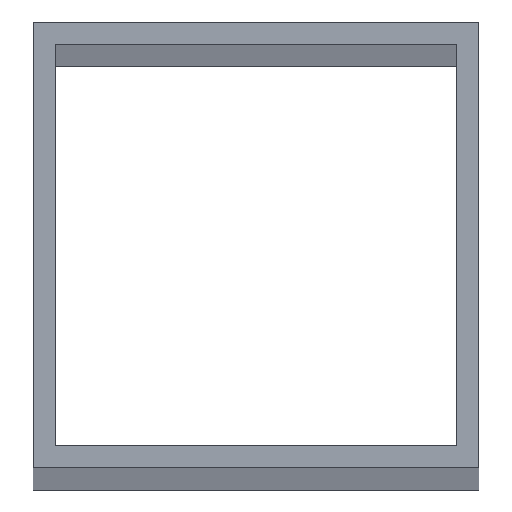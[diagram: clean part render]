
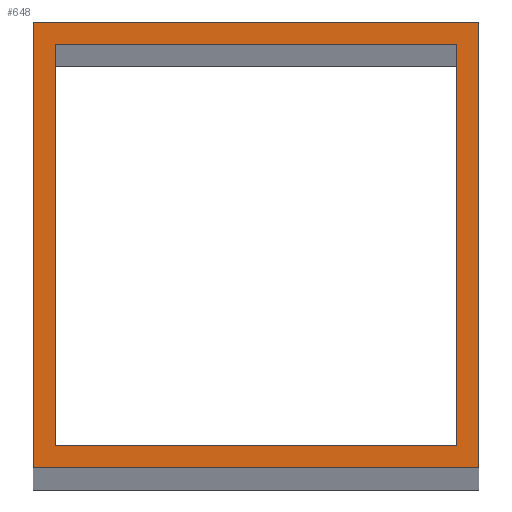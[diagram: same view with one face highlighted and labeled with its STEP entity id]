
A CAD part, top view. The second image highlights one B-rep face of the part: STEP entity #648.
In plain terms, the highlighted planar face has unit normal (0, 0, 1).
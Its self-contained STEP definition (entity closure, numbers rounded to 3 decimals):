
#24 = VERTEX_POINT('',#25);
#25 = CARTESIAN_POINT('',(50.,-50.,2848.));
#32 = PLANE('',#33);
#33 = AXIS2_PLACEMENT_3D('',#34,#35,#36);
#34 = CARTESIAN_POINT('',(50.,-50.,0.));
#35 = DIRECTION('',(-0.,1.,-0.));
#36 = DIRECTION('',(1.,0.,0.));
#44 = PLANE('',#45);
#45 = AXIS2_PLACEMENT_3D('',#46,#47,#48);
#46 = CARTESIAN_POINT('',(50.,50.,0.));
#47 = DIRECTION('',(-1.,-0.,-0.));
#48 = DIRECTION('',(0.,1.,0.));
#56 = EDGE_CURVE('',#24,#57,#59,.T.);
#57 = VERTEX_POINT('',#58);
#58 = CARTESIAN_POINT('',(-50.,-50.,2848.));
#59 = SURFACE_CURVE('',#60,(#64,#71),.PCURVE_S1.);
#60 = LINE('',#61,#62);
#61 = CARTESIAN_POINT('',(50.,-50.,2848.));
#62 = VECTOR('',#63,1.);
#63 = DIRECTION('',(-1.,-0.,-0.));
#64 = PCURVE('',#32,#65);
#65 = DEFINITIONAL_REPRESENTATION('',(#66),#70);
#66 = LINE('',#67,#68);
#67 = CARTESIAN_POINT('',(-0.,-2848.));
#68 = VECTOR('',#69,1.);
#69 = DIRECTION('',(-1.,0.));
#70 = ( GEOMETRIC_REPRESENTATION_CONTEXT(2) 
PARAMETRIC_REPRESENTATION_CONTEXT() REPRESENTATION_CONTEXT('2D SPACE',''
  ) );
#71 = PCURVE('',#72,#77);
#72 = PLANE('',#73);
#73 = AXIS2_PLACEMENT_3D('',#74,#75,#76);
#74 = CARTESIAN_POINT('',(0.,0.,2848.));
#75 = DIRECTION('',(-0.,-0.,1.));
#76 = DIRECTION('',(1.,0.,0.));
#77 = DEFINITIONAL_REPRESENTATION('',(#78),#82);
#78 = LINE('',#79,#80);
#79 = CARTESIAN_POINT('',(50.,-50.));
#80 = VECTOR('',#81,1.);
#81 = DIRECTION('',(-1.,0.));
#82 = ( GEOMETRIC_REPRESENTATION_CONTEXT(2) 
PARAMETRIC_REPRESENTATION_CONTEXT() REPRESENTATION_CONTEXT('2D SPACE',''
  ) );
#100 = PLANE('',#101);
#101 = AXIS2_PLACEMENT_3D('',#102,#103,#104);
#102 = CARTESIAN_POINT('',(-50.,-50.,0.));
#103 = DIRECTION('',(1.,-0.,-0.));
#104 = DIRECTION('',(0.,-1.,0.));
#142 = EDGE_CURVE('',#57,#143,#145,.T.);
#143 = VERTEX_POINT('',#144);
#144 = CARTESIAN_POINT('',(-50.,50.,2848.));
#145 = SURFACE_CURVE('',#146,(#150,#157),.PCURVE_S1.);
#146 = LINE('',#147,#148);
#147 = CARTESIAN_POINT('',(-50.,-50.,2848.));
#148 = VECTOR('',#149,1.);
#149 = DIRECTION('',(-0.,1.,-0.));
#150 = PCURVE('',#100,#151);
#151 = DEFINITIONAL_REPRESENTATION('',(#152),#156);
#152 = LINE('',#153,#154);
#153 = CARTESIAN_POINT('',(-0.,-2848.));
#154 = VECTOR('',#155,1.);
#155 = DIRECTION('',(-1.,0.));
#156 = ( GEOMETRIC_REPRESENTATION_CONTEXT(2) 
PARAMETRIC_REPRESENTATION_CONTEXT() REPRESENTATION_CONTEXT('2D SPACE',''
  ) );
#157 = PCURVE('',#72,#158);
#158 = DEFINITIONAL_REPRESENTATION('',(#159),#163);
#159 = LINE('',#160,#161);
#160 = CARTESIAN_POINT('',(-50.,-50.));
#161 = VECTOR('',#162,1.);
#162 = DIRECTION('',(-0.,1.));
#163 = ( GEOMETRIC_REPRESENTATION_CONTEXT(2) 
PARAMETRIC_REPRESENTATION_CONTEXT() REPRESENTATION_CONTEXT('2D SPACE',''
  ) );
#181 = PLANE('',#182);
#182 = AXIS2_PLACEMENT_3D('',#183,#184,#185);
#183 = CARTESIAN_POINT('',(-50.,50.,0.));
#184 = DIRECTION('',(-0.,-1.,-0.));
#185 = DIRECTION('',(-1.,0.,0.));
#218 = EDGE_CURVE('',#143,#219,#221,.T.);
#219 = VERTEX_POINT('',#220);
#220 = CARTESIAN_POINT('',(50.,50.,2848.));
#221 = SURFACE_CURVE('',#222,(#226,#233),.PCURVE_S1.);
#222 = LINE('',#223,#224);
#223 = CARTESIAN_POINT('',(-50.,50.,2848.));
#224 = VECTOR('',#225,1.);
#225 = DIRECTION('',(1.,-0.,-0.));
#226 = PCURVE('',#181,#227);
#227 = DEFINITIONAL_REPRESENTATION('',(#228),#232);
#228 = LINE('',#229,#230);
#229 = CARTESIAN_POINT('',(-0.,-2848.));
#230 = VECTOR('',#231,1.);
#231 = DIRECTION('',(-1.,0.));
#232 = ( GEOMETRIC_REPRESENTATION_CONTEXT(2) 
PARAMETRIC_REPRESENTATION_CONTEXT() REPRESENTATION_CONTEXT('2D SPACE',''
  ) );
#233 = PCURVE('',#72,#234);
#234 = DEFINITIONAL_REPRESENTATION('',(#235),#239);
#235 = LINE('',#236,#237);
#236 = CARTESIAN_POINT('',(-50.,50.));
#237 = VECTOR('',#238,1.);
#238 = DIRECTION('',(1.,-0.));
#239 = ( GEOMETRIC_REPRESENTATION_CONTEXT(2) 
PARAMETRIC_REPRESENTATION_CONTEXT() REPRESENTATION_CONTEXT('2D SPACE',''
  ) );
#289 = EDGE_CURVE('',#219,#24,#290,.T.);
#290 = SURFACE_CURVE('',#291,(#295,#302),.PCURVE_S1.);
#291 = LINE('',#292,#293);
#292 = CARTESIAN_POINT('',(50.,50.,2848.));
#293 = VECTOR('',#294,1.);
#294 = DIRECTION('',(-0.,-1.,-0.));
#295 = PCURVE('',#44,#296);
#296 = DEFINITIONAL_REPRESENTATION('',(#297),#301);
#297 = LINE('',#298,#299);
#298 = CARTESIAN_POINT('',(-0.,-2848.));
#299 = VECTOR('',#300,1.);
#300 = DIRECTION('',(-1.,0.));
#301 = ( GEOMETRIC_REPRESENTATION_CONTEXT(2) 
PARAMETRIC_REPRESENTATION_CONTEXT() REPRESENTATION_CONTEXT('2D SPACE',''
  ) );
#302 = PCURVE('',#72,#303);
#303 = DEFINITIONAL_REPRESENTATION('',(#304),#308);
#304 = LINE('',#305,#306);
#305 = CARTESIAN_POINT('',(50.,50.));
#306 = VECTOR('',#307,1.);
#307 = DIRECTION('',(-0.,-1.));
#308 = ( GEOMETRIC_REPRESENTATION_CONTEXT(2) 
PARAMETRIC_REPRESENTATION_CONTEXT() REPRESENTATION_CONTEXT('2D SPACE',''
  ) );
#338 = VERTEX_POINT('',#339);
#339 = CARTESIAN_POINT('',(45.,-45.,2848.));
#346 = PLANE('',#347);
#347 = AXIS2_PLACEMENT_3D('',#348,#349,#350);
#348 = CARTESIAN_POINT('',(45.,-45.,0.));
#349 = DIRECTION('',(-0.,1.,-0.));
#350 = DIRECTION('',(1.,0.,0.));
#358 = PLANE('',#359);
#359 = AXIS2_PLACEMENT_3D('',#360,#361,#362);
#360 = CARTESIAN_POINT('',(45.,45.,0.));
#361 = DIRECTION('',(-1.,-0.,-0.));
#362 = DIRECTION('',(0.,1.,0.));
#370 = EDGE_CURVE('',#338,#371,#373,.T.);
#371 = VERTEX_POINT('',#372);
#372 = CARTESIAN_POINT('',(-45.,-45.,2848.));
#373 = SURFACE_CURVE('',#374,(#378,#385),.PCURVE_S1.);
#374 = LINE('',#375,#376);
#375 = CARTESIAN_POINT('',(45.,-45.,2848.));
#376 = VECTOR('',#377,1.);
#377 = DIRECTION('',(-1.,-0.,-0.));
#378 = PCURVE('',#346,#379);
#379 = DEFINITIONAL_REPRESENTATION('',(#380),#384);
#380 = LINE('',#381,#382);
#381 = CARTESIAN_POINT('',(-0.,-2848.));
#382 = VECTOR('',#383,1.);
#383 = DIRECTION('',(-1.,0.));
#384 = ( GEOMETRIC_REPRESENTATION_CONTEXT(2) 
PARAMETRIC_REPRESENTATION_CONTEXT() REPRESENTATION_CONTEXT('2D SPACE',''
  ) );
#385 = PCURVE('',#72,#386);
#386 = DEFINITIONAL_REPRESENTATION('',(#387),#391);
#387 = LINE('',#388,#389);
#388 = CARTESIAN_POINT('',(45.,-45.));
#389 = VECTOR('',#390,1.);
#390 = DIRECTION('',(-1.,0.));
#391 = ( GEOMETRIC_REPRESENTATION_CONTEXT(2) 
PARAMETRIC_REPRESENTATION_CONTEXT() REPRESENTATION_CONTEXT('2D SPACE',''
  ) );
#409 = PLANE('',#410);
#410 = AXIS2_PLACEMENT_3D('',#411,#412,#413);
#411 = CARTESIAN_POINT('',(-45.,-45.,0.));
#412 = DIRECTION('',(1.,-0.,-0.));
#413 = DIRECTION('',(0.,-1.,0.));
#446 = EDGE_CURVE('',#371,#447,#449,.T.);
#447 = VERTEX_POINT('',#448);
#448 = CARTESIAN_POINT('',(-45.,45.,2848.));
#449 = SURFACE_CURVE('',#450,(#454,#461),.PCURVE_S1.);
#450 = LINE('',#451,#452);
#451 = CARTESIAN_POINT('',(-45.,-45.,2848.));
#452 = VECTOR('',#453,1.);
#453 = DIRECTION('',(-0.,1.,-0.));
#454 = PCURVE('',#409,#455);
#455 = DEFINITIONAL_REPRESENTATION('',(#456),#460);
#456 = LINE('',#457,#458);
#457 = CARTESIAN_POINT('',(-0.,-2848.));
#458 = VECTOR('',#459,1.);
#459 = DIRECTION('',(-1.,0.));
#460 = ( GEOMETRIC_REPRESENTATION_CONTEXT(2) 
PARAMETRIC_REPRESENTATION_CONTEXT() REPRESENTATION_CONTEXT('2D SPACE',''
  ) );
#461 = PCURVE('',#72,#462);
#462 = DEFINITIONAL_REPRESENTATION('',(#463),#467);
#463 = LINE('',#464,#465);
#464 = CARTESIAN_POINT('',(-45.,-45.));
#465 = VECTOR('',#466,1.);
#466 = DIRECTION('',(-0.,1.));
#467 = ( GEOMETRIC_REPRESENTATION_CONTEXT(2) 
PARAMETRIC_REPRESENTATION_CONTEXT() REPRESENTATION_CONTEXT('2D SPACE',''
  ) );
#485 = PLANE('',#486);
#486 = AXIS2_PLACEMENT_3D('',#487,#488,#489);
#487 = CARTESIAN_POINT('',(-45.,45.,0.));
#488 = DIRECTION('',(-0.,-1.,-0.));
#489 = DIRECTION('',(-1.,0.,0.));
#522 = EDGE_CURVE('',#447,#523,#525,.T.);
#523 = VERTEX_POINT('',#524);
#524 = CARTESIAN_POINT('',(45.,45.,2848.));
#525 = SURFACE_CURVE('',#526,(#530,#537),.PCURVE_S1.);
#526 = LINE('',#527,#528);
#527 = CARTESIAN_POINT('',(-45.,45.,2848.));
#528 = VECTOR('',#529,1.);
#529 = DIRECTION('',(1.,-0.,-0.));
#530 = PCURVE('',#485,#531);
#531 = DEFINITIONAL_REPRESENTATION('',(#532),#536);
#532 = LINE('',#533,#534);
#533 = CARTESIAN_POINT('',(-0.,-2848.));
#534 = VECTOR('',#535,1.);
#535 = DIRECTION('',(-1.,0.));
#536 = ( GEOMETRIC_REPRESENTATION_CONTEXT(2) 
PARAMETRIC_REPRESENTATION_CONTEXT() REPRESENTATION_CONTEXT('2D SPACE',''
  ) );
#537 = PCURVE('',#72,#538);
#538 = DEFINITIONAL_REPRESENTATION('',(#539),#543);
#539 = LINE('',#540,#541);
#540 = CARTESIAN_POINT('',(-45.,45.));
#541 = VECTOR('',#542,1.);
#542 = DIRECTION('',(1.,-0.));
#543 = ( GEOMETRIC_REPRESENTATION_CONTEXT(2) 
PARAMETRIC_REPRESENTATION_CONTEXT() REPRESENTATION_CONTEXT('2D SPACE',''
  ) );
#593 = EDGE_CURVE('',#523,#338,#594,.T.);
#594 = SURFACE_CURVE('',#595,(#599,#606),.PCURVE_S1.);
#595 = LINE('',#596,#597);
#596 = CARTESIAN_POINT('',(45.,45.,2848.));
#597 = VECTOR('',#598,1.);
#598 = DIRECTION('',(-0.,-1.,-0.));
#599 = PCURVE('',#358,#600);
#600 = DEFINITIONAL_REPRESENTATION('',(#601),#605);
#601 = LINE('',#602,#603);
#602 = CARTESIAN_POINT('',(-0.,-2848.));
#603 = VECTOR('',#604,1.);
#604 = DIRECTION('',(-1.,0.));
#605 = ( GEOMETRIC_REPRESENTATION_CONTEXT(2) 
PARAMETRIC_REPRESENTATION_CONTEXT() REPRESENTATION_CONTEXT('2D SPACE',''
  ) );
#606 = PCURVE('',#72,#607);
#607 = DEFINITIONAL_REPRESENTATION('',(#608),#612);
#608 = LINE('',#609,#610);
#609 = CARTESIAN_POINT('',(45.,45.));
#610 = VECTOR('',#611,1.);
#611 = DIRECTION('',(-0.,-1.));
#612 = ( GEOMETRIC_REPRESENTATION_CONTEXT(2) 
PARAMETRIC_REPRESENTATION_CONTEXT() REPRESENTATION_CONTEXT('2D SPACE',''
  ) );
#648 = ADVANCED_FACE('',(#649,#655),#72,.T.);
#649 = FACE_BOUND('',#650,.F.);
#650 = EDGE_LOOP('',(#651,#652,#653,#654));
#651 = ORIENTED_EDGE('',*,*,#56,.T.);
#652 = ORIENTED_EDGE('',*,*,#142,.T.);
#653 = ORIENTED_EDGE('',*,*,#218,.T.);
#654 = ORIENTED_EDGE('',*,*,#289,.T.);
#655 = FACE_BOUND('',#656,.T.);
#656 = EDGE_LOOP('',(#657,#658,#659,#660));
#657 = ORIENTED_EDGE('',*,*,#370,.T.);
#658 = ORIENTED_EDGE('',*,*,#446,.T.);
#659 = ORIENTED_EDGE('',*,*,#522,.T.);
#660 = ORIENTED_EDGE('',*,*,#593,.T.);
